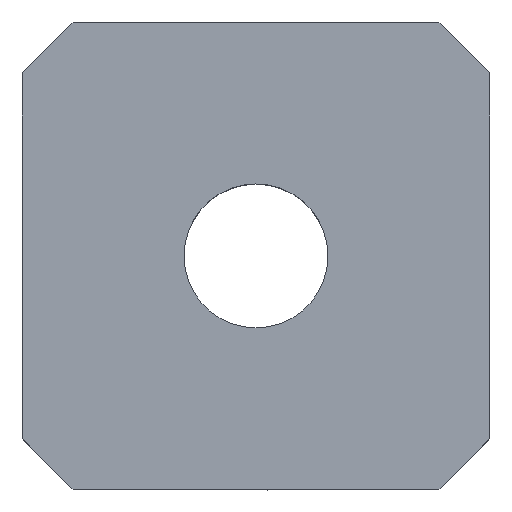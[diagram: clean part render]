
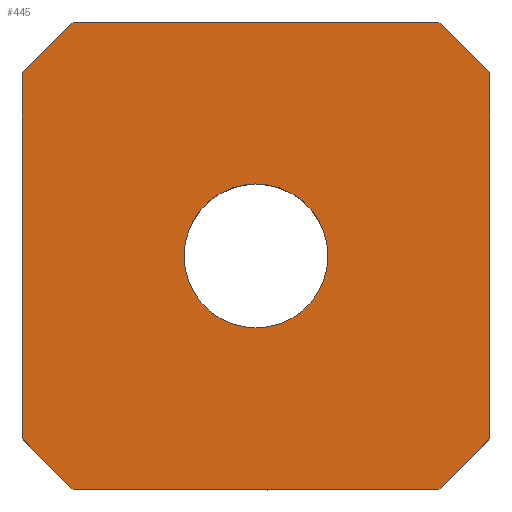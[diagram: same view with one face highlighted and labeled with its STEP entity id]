
A CAD part, top view. The second image highlights one B-rep face of the part: STEP entity #445.
In plain terms, the highlighted planar face has unit normal (0, 0, 1).
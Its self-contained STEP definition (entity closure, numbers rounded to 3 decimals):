
#213=CARTESIAN_POINT('',(5.086,-6.5,0.0));
#214=VERTEX_POINT('',#213);
#221=CARTESIAN_POINT('',(-5.086,-6.5,0.0));
#222=VERTEX_POINT('',#221);
#223=CARTESIAN_POINT('',(5.086,-6.5,0.0));
#224=DIRECTION('',(-1.0,0.0,0.0));
#225=VECTOR('',#224,10.172);
#226=LINE('',#223,#225);
#227=EDGE_CURVE('',#214,#222,#226,.T.);
#244=CARTESIAN_POINT('',(6.5,-5.086,0.0));
#245=VERTEX_POINT('',#244);
#252=CARTESIAN_POINT('',(6.5,-5.086,0.0));
#253=DIRECTION('',(-0.707,-0.707,0.0));
#254=VECTOR('',#253,2.);
#255=LINE('',#252,#254);
#256=EDGE_CURVE('',#245,#214,#255,.T.);
#268=CARTESIAN_POINT('',(6.5,5.086,0.0));
#269=VERTEX_POINT('',#268);
#276=CARTESIAN_POINT('',(6.5,5.086,0.0));
#277=DIRECTION('',(0.0,-1.0,0.0));
#278=VECTOR('',#277,10.172);
#279=LINE('',#276,#278);
#280=EDGE_CURVE('',#269,#245,#279,.T.);
#292=CARTESIAN_POINT('',(5.086,6.5,0.0));
#293=VERTEX_POINT('',#292);
#300=CARTESIAN_POINT('',(5.086,6.5,0.0));
#301=DIRECTION('',(0.707,-0.707,0.0));
#302=VECTOR('',#301,2.);
#303=LINE('',#300,#302);
#304=EDGE_CURVE('',#293,#269,#303,.T.);
#326=CARTESIAN_POINT('',(2.0,0.,0.0));
#327=VERTEX_POINT('',#326);
#328=CARTESIAN_POINT('',(0.0,0.0,0.0));
#329=DIRECTION('',(0.0,0.0,-1.0));
#330=DIRECTION('',(-1.0,0.0,0.0));
#331=AXIS2_PLACEMENT_3D('',#328,#329,#330);
#332=CIRCLE('',#331,2.0);
#333=EDGE_CURVE('',#327,#327,#332,.T.);
#344=CARTESIAN_POINT('',(-5.086,6.5,0.0));
#345=VERTEX_POINT('',#344);
#352=CARTESIAN_POINT('',(-5.086,6.5,0.0));
#353=DIRECTION('',(1.0,0.0,0.0));
#354=VECTOR('',#353,10.172);
#355=LINE('',#352,#354);
#356=EDGE_CURVE('',#345,#293,#355,.T.);
#368=CARTESIAN_POINT('',(-6.5,5.086,0.0));
#369=VERTEX_POINT('',#368);
#376=CARTESIAN_POINT('',(-6.5,5.086,0.0));
#377=DIRECTION('',(0.707,0.707,0.0));
#378=VECTOR('',#377,2.);
#379=LINE('',#376,#378);
#380=EDGE_CURVE('',#369,#345,#379,.T.);
#392=CARTESIAN_POINT('',(-6.5,-5.086,0.0));
#393=VERTEX_POINT('',#392);
#400=CARTESIAN_POINT('',(-6.5,-5.086,0.0));
#401=DIRECTION('',(0.0,1.0,0.0));
#402=VECTOR('',#401,10.172);
#403=LINE('',#400,#402);
#404=EDGE_CURVE('',#393,#369,#403,.T.);
#417=CARTESIAN_POINT('',(-5.086,-6.5,0.0));
#418=DIRECTION('',(-0.707,0.707,0.0));
#419=VECTOR('',#418,2.);
#420=LINE('',#417,#419);
#421=EDGE_CURVE('',#222,#393,#420,.T.);
#427=CARTESIAN_POINT('',(0.,0.,0.0));
#428=DIRECTION('',(0.0,0.0,1.0));
#429=DIRECTION('',(1.0,0.0,0.0));
#430=AXIS2_PLACEMENT_3D('',#427,#428,#429);
#431=PLANE('',#430);
#432=ORIENTED_EDGE('',*,*,#304,.F.);
#433=ORIENTED_EDGE('',*,*,#356,.F.);
#434=ORIENTED_EDGE('',*,*,#380,.F.);
#435=ORIENTED_EDGE('',*,*,#404,.F.);
#436=ORIENTED_EDGE('',*,*,#421,.F.);
#437=ORIENTED_EDGE('',*,*,#227,.F.);
#438=ORIENTED_EDGE('',*,*,#256,.F.);
#439=ORIENTED_EDGE('',*,*,#280,.F.);
#440=EDGE_LOOP('',(#432,#433,#434,#435,#436,#437,#438,#439));
#441=FACE_OUTER_BOUND('',#440,.T.);
#442=ORIENTED_EDGE('',*,*,#333,.T.);
#443=EDGE_LOOP('',(#442));
#444=FACE_BOUND('',#443,.T.);
#445=ADVANCED_FACE('',(#441,#444),#431,.T.);
